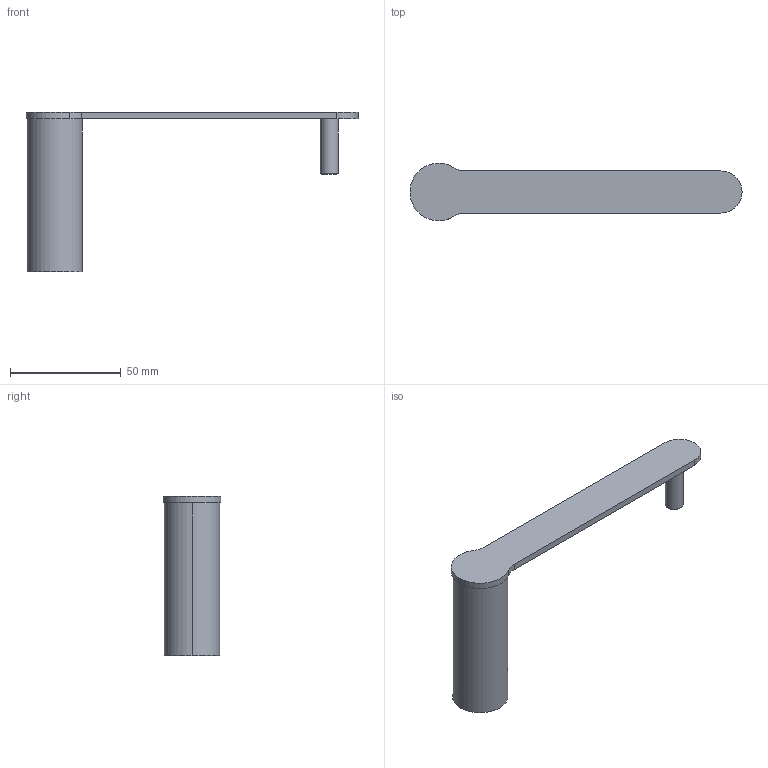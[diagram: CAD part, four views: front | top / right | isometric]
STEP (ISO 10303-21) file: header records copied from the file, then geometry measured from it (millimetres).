
FILE_DESCRIPTION((''),'2;1');
FILE_NAME('5101','2022-03-07T08:39:45',('Administrator'),(''),'CREO PARAMETRIC BY PTC INC, 2019471','CREO PARAMETRIC BY PTC INC, 2019471','');
FILE_SCHEMA(('CONFIG_CONTROL_DESIGN'));
Length unit declared in the file: millimetre
Products named in the file (1): 5101
Bounding box: 149.95 x 25.97 x 72 mm (x, y, z)
Volume: 17517.9 mm3; surface area: 17538.6 mm2
Topology: 1 solids, 1 shells, 19 faces, 40 edges, 26 vertices
Faces by surface type: cylinder 10, plane 7, cone 2
Entity records: 558 total; most frequent: DIRECTION 100, CARTESIAN_POINT 85, ORIENTED_EDGE 80, AXIS2_PLACEMENT_3D 41, EDGE_CURVE 40, VERTEX_POINT 26, EDGE_LOOP 22, CIRCLE 22
